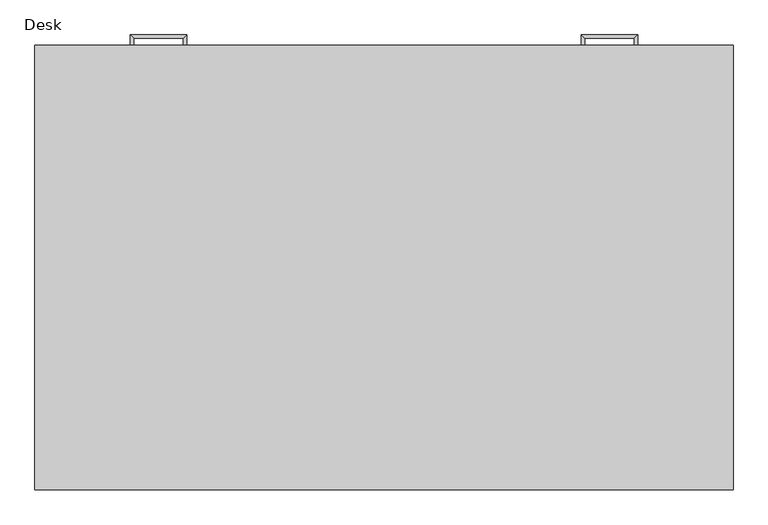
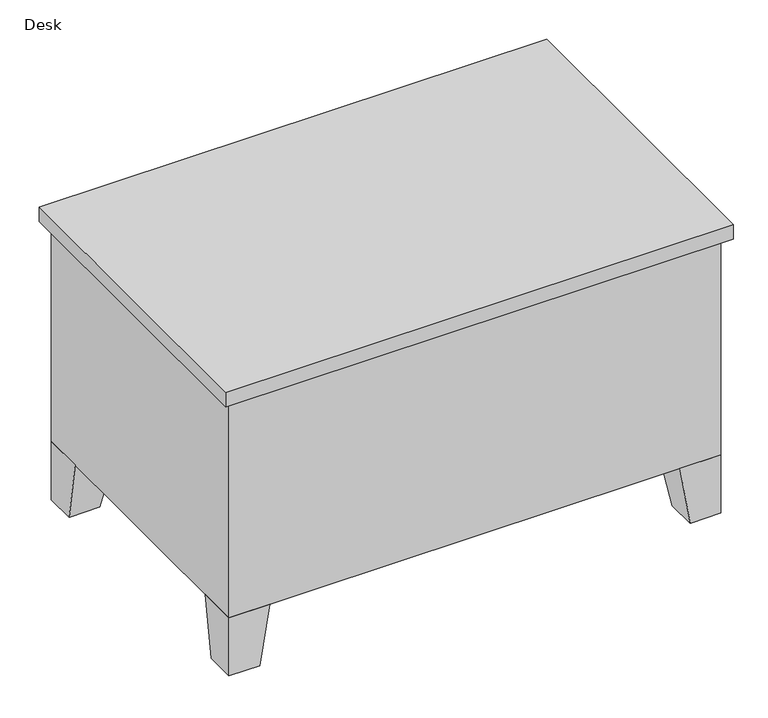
"""IFC4 building model written with IfcOpenShell, lengths in millimetres: furniture geometry."""

from ifc_helpers import new_model, si_unit, frame, origin, place, context, project, spatial, polyline, outline, extrude, faceted_brep, source, transform, mapped, element, save


def desk_8768a1f0(model_context):
    return source(origin(), model_context, "Body", "SolidModel", [
        extrude(outline(polyline([(1200.15, 762.0), (831.85, 762.0), (831.85, 774.7), (1200.15, 774.7), (1200.15, 762.0)])), frame((0.0, 0.0, 603.25), z_axis=(0.0, 0.0, 1.0), x_axis=(1.0, 0.0, 0.0)), (0.0, 0.0, 1.0), 101.6),
        extrude(outline(polyline([(1200.15, 762.0), (831.85, 762.0), (831.85, 774.7), (1200.15, 774.7), (1200.15, 762.0)])), frame((0.0, 0.0, 171.45), z_axis=(0.0, 0.0, 1.0), x_axis=(1.0, 0.0, 0.0)), (0.0, 0.0, 1.0), 412.75),
        extrude(outline(polyline([(387.35, 762.0), (19.05, 762.0), (19.05, 774.7), (387.35, 774.7), (387.35, 762.0)])), frame((0.0, 0.0, 603.25), z_axis=(0.0, 0.0, 1.0), x_axis=(1.0, 0.0, 0.0)), (0.0, 0.0, 1.0), 101.6),
        extrude(outline(polyline([(387.35, 762.0), (19.05, 762.0), (19.05, 774.7), (387.35, 774.7), (387.35, 762.0)])), frame((0.0, 0.0, 171.45), z_axis=(0.0, 0.0, 1.0), x_axis=(1.0, 0.0, 0.0)), (0.0, 0.0, 1.0), 171.45),
        extrude(outline(polyline([(387.35, 762.0), (19.05, 762.0), (19.05, 774.7), (387.35, 774.7), (387.35, 762.0)])), frame((0.0, 0.0, 482.6), z_axis=(0.0, 0.0, 1.0), x_axis=(1.0, 0.0, 0.0)), (0.0, 0.0, 1.0), 101.6),
        extrude(outline(polyline([(387.35, 762.0), (19.05, 762.0), (19.05, 774.7), (387.35, 774.7), (387.35, 762.0)])), frame((0.0, 0.0, 361.95), z_axis=(0.0, 0.0, 1.0), x_axis=(1.0, 0.0, 0.0)), (0.0, 0.0, 1.0), 101.6),
        faceted_brep([(1117.6, 762.0, 152.4), (1117.6, 660.4, 152.4), (1219.2, 660.4, 152.4), (1219.2, 762.0, 152.4), (1143.0, 762.0, 0.0), (1219.2, 762.0, 0.0), (1219.2, 685.8, 0.0), (1143.0, 685.8, 0.0)], [[[0, 1, 2, 3]], [[4, 5, 6, 7]], [[4, 7, 1, 0]], [[7, 6, 2, 1]], [[6, 5, 3, 2]], [[5, 4, 0, 3]]]),
        faceted_brep([(1117.6, 0.0, 152.4), (1219.2, 0.0, 152.4), (1219.2, 101.6, 152.4), (1117.6, 101.6, 152.4), (1143.0, 0.0, 0.0), (1143.0, 76.2, 0.0), (1219.2, 76.2, 0.0), (1219.2, 0.0, 0.0)], [[[0, 1, 2, 3]], [[4, 5, 6, 7]], [[4, 7, 1, 0]], [[7, 6, 2, 1]], [[6, 5, 3, 2]], [[5, 4, 0, 3]]]),
        faceted_brep([(101.6, 0.0, 152.4), (101.6, 101.6, 152.4), (0.0, 101.6, 152.4), (0.0, 0.0, 152.4), (76.2, 0.0, 0.0), (0.0, 0.0, 0.0), (0.0, 76.2, 0.0), (76.2, 76.2, 0.0)], [[[0, 1, 2, 3]], [[4, 5, 6, 7]], [[4, 7, 1, 0]], [[7, 6, 2, 1]], [[6, 5, 3, 2]], [[5, 4, 0, 3]]]),
        faceted_brep([(101.6, 762.0, 152.4), (0.0, 762.0, 152.4), (0.0, 660.4, 152.4), (101.6, 660.4, 152.4), (76.2, 762.0, 0.0), (76.2, 685.8, 0.0), (0.0, 685.8, 0.0), (0.0, 762.0, 0.0)], [[[0, 1, 2, 3]], [[4, 5, 6, 7]], [[4, 7, 1, 0]], [[7, 6, 2, 1]], [[6, 5, 3, 2]], [[5, 4, 0, 3]]]),
        extrude(outline(polyline([(1238.25, 781.05), (1238.25, -19.05), (-19.05, -19.05), (-19.05, 781.05), (1238.25, 781.05)])), frame((0.0, 0.0, 723.9), z_axis=(0.0, 0.0, 1.0), x_axis=(1.0, 0.0, 0.0)), (0.0, 0.0, 1.0), 38.1),
        extrude(outline(polyline([(406.4, 762.0), (406.4, 50.8), (812.8, 50.8), (812.8, 762.0), (1219.2, 762.0), (1219.2, 0.0), (0.0, 0.0), (0.0, 762.0), (406.4, 762.0)])), frame((0.0, 0.0, 152.4), z_axis=(0.0, 0.0, 1.0), x_axis=(1.0, 0.0, 0.0)), (0.0, 0.0, 1.0), 571.5),
        faceted_brep([(1060.45, 774.7, 546.1), (1060.45, 774.7, 533.4), (1066.8, 774.7, 533.4), (1066.8, 774.7, 546.1), (1060.45, 793.75, 546.1), (1060.45, 793.75, 533.4), (1066.8, 800.1, 533.4), (1066.8, 800.1, 546.1), (971.55, 793.75, 546.1), (971.55, 793.75, 533.4), (965.2, 800.1, 533.4), (965.2, 800.1, 546.1), (971.55, 774.7, 546.1), (965.2, 774.7, 546.1), (965.2, 774.7, 533.4), (971.55, 774.7, 533.4)], [[[0, 1, 2, 3]], [[1, 0, 4, 5]], [[2, 1, 5, 6]], [[3, 2, 6, 7]], [[0, 3, 7, 4]], [[5, 4, 8, 9]], [[6, 5, 9, 10]], [[7, 6, 10, 11]], [[4, 7, 11, 8]], [[12, 13, 14, 15]], [[9, 8, 12, 15]], [[10, 9, 15, 14]], [[11, 10, 14, 13]], [[8, 11, 13, 12]]]),
        faceted_brep([(1060.45, 774.7, 666.75), (1060.45, 774.7, 654.05), (1066.8, 774.7, 654.05), (1066.8, 774.7, 666.75), (1060.45, 793.75, 666.75), (1060.45, 793.75, 654.05), (1066.8, 800.1, 654.05), (1066.8, 800.1, 666.75), (971.55, 793.75, 666.75), (971.55, 793.75, 654.05), (965.2, 800.1, 654.05), (965.2, 800.1, 666.75), (971.55, 774.7, 666.75), (965.2, 774.7, 666.75), (965.2, 774.7, 654.05), (971.55, 774.7, 654.05)], [[[0, 1, 2, 3]], [[1, 0, 4, 5]], [[2, 1, 5, 6]], [[3, 2, 6, 7]], [[0, 3, 7, 4]], [[5, 4, 8, 9]], [[6, 5, 9, 10]], [[7, 6, 10, 11]], [[4, 7, 11, 8]], [[12, 13, 14, 15]], [[9, 8, 12, 15]], [[10, 9, 15, 14]], [[11, 10, 14, 13]], [[8, 11, 13, 12]]]),
        faceted_brep([(158.75, 774.7, 304.8), (152.4, 774.7, 304.8), (152.4, 774.7, 292.1), (158.75, 774.7, 292.1), (158.75, 793.75, 304.8), (152.4, 800.1, 304.8), (152.4, 800.1, 292.1), (158.75, 793.75, 292.1), (247.65, 793.75, 304.8), (254.0, 800.1, 304.8), (254.0, 800.1, 292.1), (247.65, 793.75, 292.1), (247.65, 774.7, 304.8), (247.65, 774.7, 292.1), (254.0, 774.7, 292.1), (254.0, 774.7, 304.8)], [[[0, 1, 2, 3]], [[1, 0, 4, 5]], [[2, 1, 5, 6]], [[3, 2, 6, 7]], [[0, 3, 7, 4]], [[5, 4, 8, 9]], [[6, 5, 9, 10]], [[7, 6, 10, 11]], [[4, 7, 11, 8]], [[12, 13, 14, 15]], [[9, 8, 12, 15]], [[10, 9, 15, 14]], [[11, 10, 14, 13]], [[8, 11, 13, 12]]]),
        faceted_brep([(158.75, 774.7, 425.45), (152.4, 774.7, 425.45), (152.4, 774.7, 412.75), (158.75, 774.7, 412.75), (158.75, 793.75, 425.45), (152.4, 800.1, 425.45), (152.4, 800.1, 412.75), (158.75, 793.75, 412.75), (247.65, 793.75, 425.45), (254.0, 800.1, 425.45), (254.0, 800.1, 412.75), (247.65, 793.75, 412.75), (247.65, 774.7, 425.45), (247.65, 774.7, 412.75), (254.0, 774.7, 412.75), (254.0, 774.7, 425.45)], [[[0, 1, 2, 3]], [[1, 0, 4, 5]], [[2, 1, 5, 6]], [[3, 2, 6, 7]], [[0, 3, 7, 4]], [[5, 4, 8, 9]], [[6, 5, 9, 10]], [[7, 6, 10, 11]], [[4, 7, 11, 8]], [[12, 13, 14, 15]], [[9, 8, 12, 15]], [[10, 9, 15, 14]], [[11, 10, 14, 13]], [[8, 11, 13, 12]]]),
        faceted_brep([(158.75, 774.7, 546.1), (152.4, 774.7, 546.1), (152.4, 774.7, 533.4), (158.75, 774.7, 533.4), (158.75, 793.75, 546.1), (152.4, 800.1, 546.1), (152.4, 800.1, 533.4), (158.75, 793.75, 533.4), (247.65, 793.75, 546.1), (254.0, 800.1, 546.1), (254.0, 800.1, 533.4), (247.65, 793.75, 533.4), (247.65, 774.7, 546.1), (247.65, 774.7, 533.4), (254.0, 774.7, 533.4), (254.0, 774.7, 546.1)], [[[0, 1, 2, 3]], [[1, 0, 4, 5]], [[2, 1, 5, 6]], [[3, 2, 6, 7]], [[0, 3, 7, 4]], [[5, 4, 8, 9]], [[6, 5, 9, 10]], [[7, 6, 10, 11]], [[4, 7, 11, 8]], [[12, 13, 14, 15]], [[9, 8, 12, 15]], [[10, 9, 15, 14]], [[11, 10, 14, 13]], [[8, 11, 13, 12]]]),
        faceted_brep([(158.75, 774.7, 666.75), (152.4, 774.7, 666.75), (152.4, 774.7, 654.05), (158.75, 774.7, 654.05), (158.75, 793.75, 666.75), (152.4, 800.1, 666.75), (152.4, 800.1, 654.05), (158.75, 793.75, 654.05), (247.65, 793.75, 666.75), (254.0, 800.1, 666.75), (254.0, 800.1, 654.05), (247.65, 793.75, 654.05), (247.65, 774.7, 666.75), (247.65, 774.7, 654.05), (254.0, 774.7, 654.05), (254.0, 774.7, 666.75)], [[[0, 1, 2, 3]], [[1, 0, 4, 5]], [[2, 1, 5, 6]], [[3, 2, 6, 7]], [[0, 3, 7, 4]], [[5, 4, 8, 9]], [[6, 5, 9, 10]], [[7, 6, 10, 11]], [[4, 7, 11, 8]], [[12, 13, 14, 15]], [[9, 8, 12, 15]], [[10, 9, 15, 14]], [[11, 10, 14, 13]], [[8, 11, 13, 12]]]),
    ])


if __name__ == "__main__":
    model = new_model("IFC4")
    model_context = context("Model", 3, world=origin())
    ifc_project = project(units=[si_unit("LENGTHUNIT", "METRE", prefix="MILLI")], contexts=[model_context])
    site = spatial("IfcSite", under=ifc_project)
    building = spatial("IfcBuilding", under=site)
    placement = place(None, origin())
    desk_shape = desk_8768a1f0(model_context)
    element("IfcFurniture", 1, ObjectType="Desk : 48\" x 30\" Dispatch", at=placement, inside=building, context=model_context, shape_type="MappedRepresentation", body=[
        mapped(desk_shape, transform((0.0, 0.0, 0.0), x_axis=(1.0, 0.0, 0.0), y_axis=(0.0, 1.0, 0.0), z_axis=(0.0, 0.0, 1.0))),
    ])
    save(model, "model.ifc")
